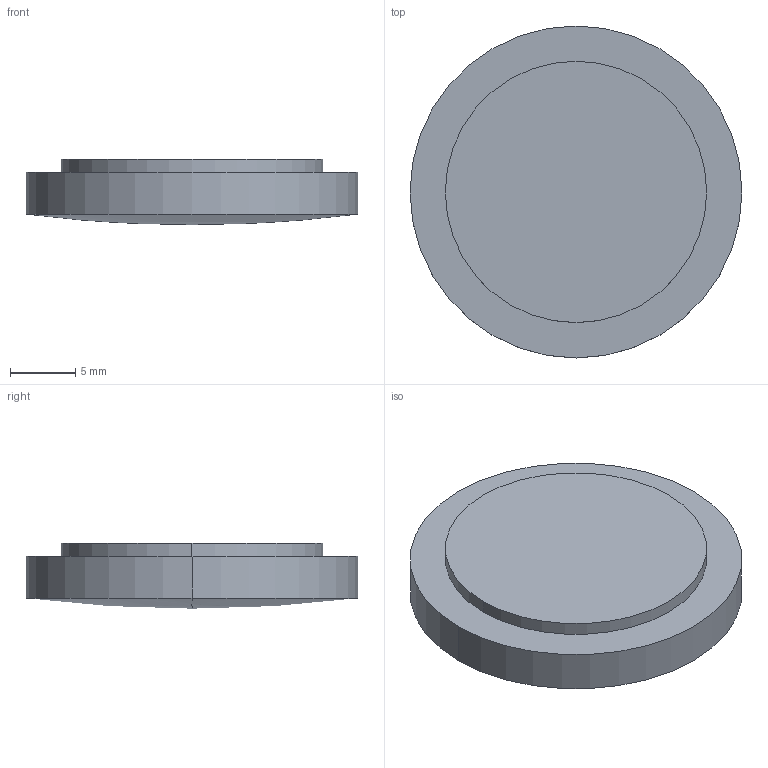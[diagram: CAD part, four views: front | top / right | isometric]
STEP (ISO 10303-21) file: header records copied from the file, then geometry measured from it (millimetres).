
FILE_DESCRIPTION(('STEP AP214'),'1');
FILE_NAME('LLR-25240.STEP','2020-03-09T17:41:59',(' '),(' '),'Spatial InterOp 3D',' ',' ');
FILE_SCHEMA(('AUTOMOTIVE_DESIGN { 1 0 10303 214 1 1 1 1 }'));
Length unit declared in the file: millimetre
Products named in the file (1): 1
Bounding box: 25.4 x 25.4 x 5 mm (x, y, z)
Volume: 2138 mm3; surface area: 1961.8 mm2
Topology: 2 solids, 2 shells, 9 faces, 16 edges, 9 vertices
Faces by surface type: cylinder 4, plane 3, sphere 2
Entity records: 229 total; most frequent: DIRECTION 46, CARTESIAN_POINT 34, ORIENTED_EDGE 28, AXIS2_PLACEMENT_3D 21, EDGE_CURVE 14, CIRCLE 10, ADVANCED_FACE 9, FACE_OUTER_BOUND 9
